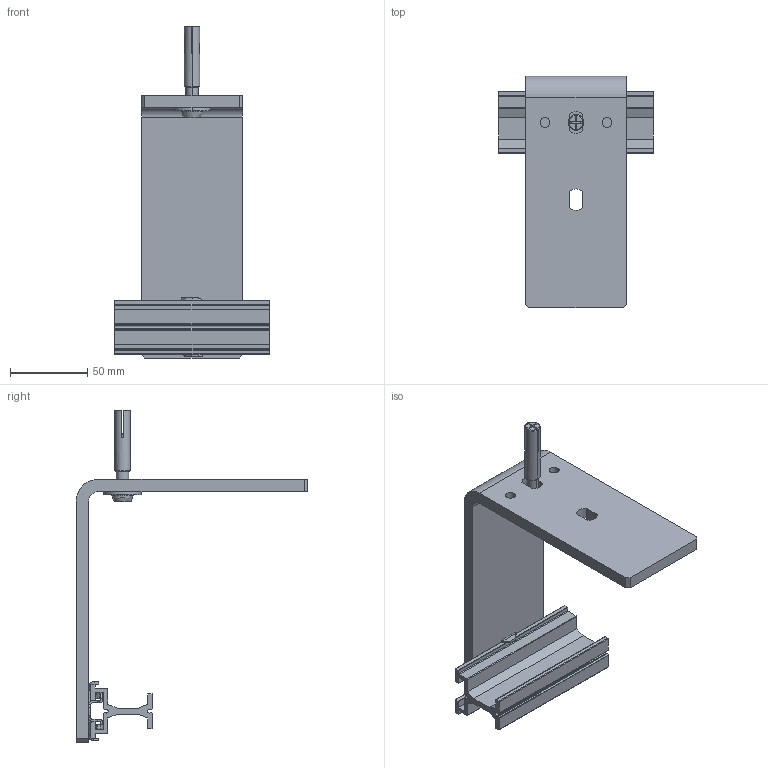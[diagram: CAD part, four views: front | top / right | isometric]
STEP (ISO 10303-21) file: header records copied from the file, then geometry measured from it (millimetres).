
FILE_DESCRIPTION (( 'STEP AP214' ), '1' );
FILE_NAME ('0000648939_wandwinekl_twist_asm.STEP', '2021-03-17T14:30:58', ( '' ), ( '' ), 'SwSTEP 2.0', 'SolidWorks 2019', '' );
FILE_SCHEMA (( 'AUTOMOTIVE_DESIGN' ));
Length unit declared in the file: millimetre
Products named in the file (7): 31158161_02_DREHRIEGEL; 0000648939_wandwinekl_twist_asm; Trumpt 95; D9021_084_ST; I7380_08_40_ST; 0000648858_WANDWINKEL; EINSCHLAGANKER_EA_M8
Assembly tree (7 placements, depth 2):
  0000648939_wandwinekl_twist_asm
    0000648858_WANDWINKEL
    31158161_02_DREHRIEGEL  x2
    EINSCHLAGANKER_EA_M8
    D9021_084_ST
    I7380_08_40_ST
    Trumpt 95
Bounding box: 100 x 150 x 215 mm (x, y, z)
Volume: 38990.5 mm3; surface area: 79101.6 mm2
Topology: 4 solids, 11 shells, 327 faces, 891 edges, 581 vertices
Faces by surface type: plane 187, cylinder 117, cone 14, bspline 9
Entity records: 8602 total; most frequent: CARTESIAN_POINT 1939, DIRECTION 1351, ORIENTED_EDGE 1318, EDGE_CURVE 667, AXIS2_PLACEMENT_3D 457, VERTEX_POINT 441, VECTOR 437, LINE 437
